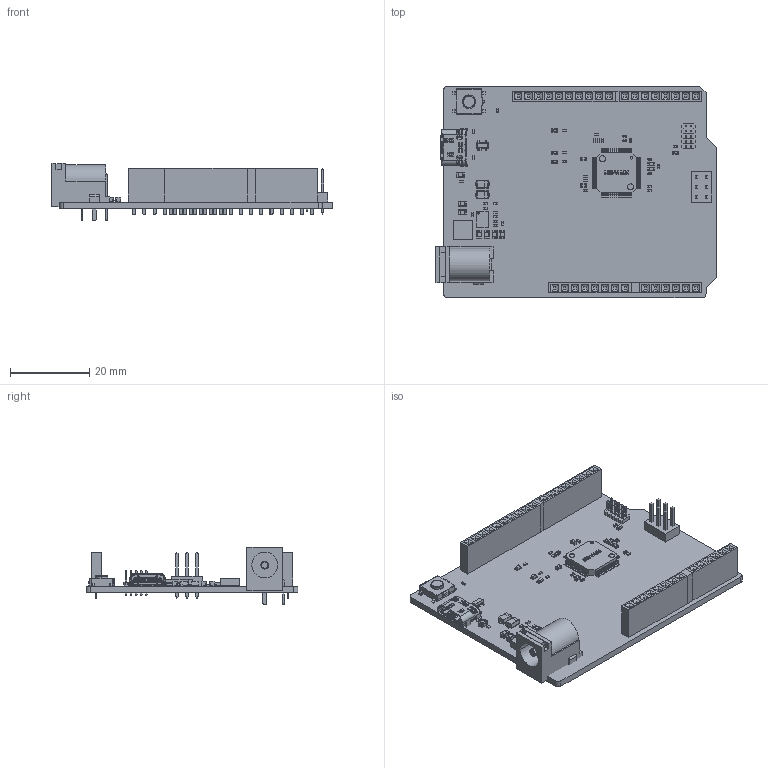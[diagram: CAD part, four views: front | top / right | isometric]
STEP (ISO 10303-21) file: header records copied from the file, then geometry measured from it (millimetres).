
FILE_DESCRIPTION(('Open CASCADE Model'),'2;1');
FILE_NAME('Open CASCADE Shape Model','2023-08-30T17:55:41',('Author'),( 'Open CASCADE'),'Open CASCADE STEP processor 7.5','Open CASCADE 7.5' ,'Unknown');
FILE_SCHEMA(('AUTOMOTIVE_DESIGN { 1 0 10303 214 1 1 1 1 }'));
Length unit declared in the file: millimetre
Products named in the file (106): PCB; Board; Open CASCADE STEP translator 7.5 5.1.1; R26; RES-0402; R10; D2; SOD123FL; 8279795424; Body; Open CASCADE STEP translator 7.5 15.1.1; lead; D3; C20; CAP-0402; C12; C13; CAP-0805; C15; C14; C19; C16; L3; 6431045296; Extruded; R21; R22; R11; R13; R18; U2; 6545901392; Open CASCADE STEP translator 6.8 36.1; Open CASCADE STEP translator 6.8 36.2.1; Thermal_Shape; Pin_Shape; Open CASCADE STEP translator 6.8 36.4.1; C17; C18; R20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
Assembly tree (224 placements, depth 7):
  PCB
    Board
      Open CASCADE STEP translator 7.5 5.1.1
    R26
      RES-0402
    R10
      RES-0402
    D2
      SOD123FL
        8279795424
          Body
            Open CASCADE STEP translator 7.5 15.1.1
          lead  x2
    D3
      SOD123FL
        8279795424
          Body
            Open CASCADE STEP translator 7.5 15.1.1
          lead  x2
    C20
      CAP-0402
    C12
      CAP-0402
    C13
      CAP-0805
    C15
      CAP-0805
    C14
      CAP-0402
    C19
      CAP-0805
    C16
      CAP-0805
    L3
      6431045296
        Extruded
    R21
      RES-0402
    R22
      RES-0402
    R11
      RES-0402
    R13
      RES-0402
    R18
      RES-0402
    U2
      6545901392
        Open CASCADE STEP translator 6.8 36.1
        Body
          Open CASCADE STEP translator 6.8 36.2.1
        Thermal_Shape
        Pin_Shape  x12
          Open CASCADE STEP translator 6.8 36.4.1
    C17
      CAP-0805
    C18
      CAP-0805
    R20
      RES-0402
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Bounding box: 70.54 x 53.34 x 14.5 mm (x, y, z)
Volume: 9470.7 mm3; surface area: 13388.1 mm2
Topology: 150 solids, 151 shells, 6561 faces, 15759 edges, 9386 vertices
Faces by surface type: plane 4589, cylinder 1466, bspline 230, sphere 204, cone 48, torus 16, revolution 8
Full cylindrical faces by diameter (mm): 0.07 x4, 0.375 x1, 1.5 x2
Entity records: 102670 total; most frequent: CARTESIAN_POINT 18030, ORIENTED_EDGE 14079, DIRECTION 13823, EDGE_CURVE 7040, LINE 5451, VECTOR 5451, VERTEX_POINT 4406, AXIS2_PLACEMENT_3D 4182
